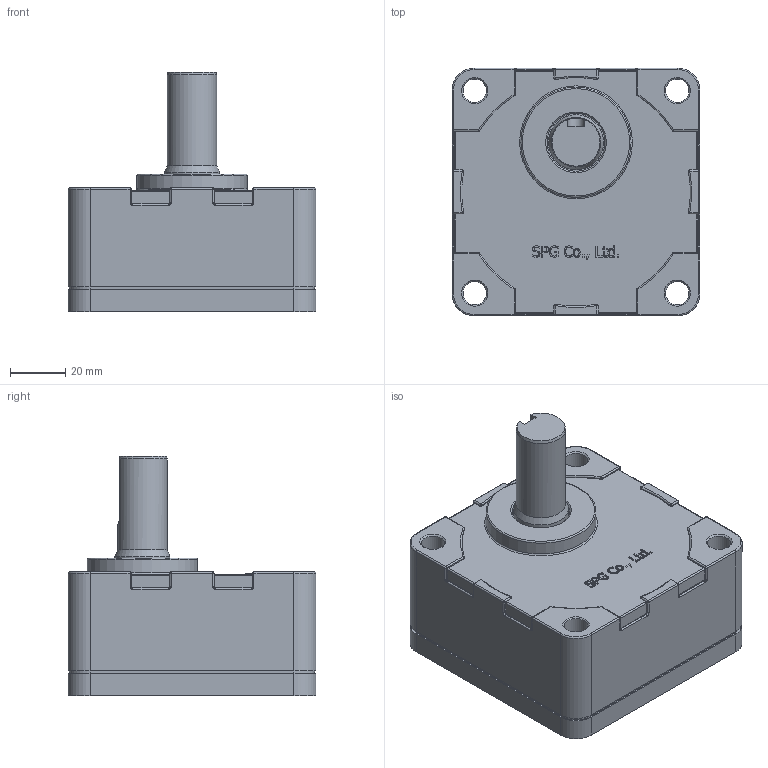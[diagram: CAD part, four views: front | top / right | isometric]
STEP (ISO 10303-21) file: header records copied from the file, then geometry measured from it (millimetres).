
FILE_DESCRIPTION((''),'2;1');
FILE_NAME('C:\Documents and Settings\Administrator\바탕 화면\BLDC 3D FILE\GEAR HEAD ASS''Y\60\XTG95K~XTG920K.stp','2014-06-19T12:46:14',('kdhkdh'),(''),'Autodesk Inventor 2011','Autodesk Inventor 2011','');
FILE_SCHEMA(('AUTOMOTIVE_DESIGN { 1 0 10303 214 1 1 1 1 }'));
Length unit declared in the file: millimetre
Products named in the file (1): 부품6
Bounding box: 90 x 90 x 87 mm (x, y, z)
Volume: 347507.8 mm3; surface area: 42230.8 mm2
Topology: 1 solids, 1 shells, 455 faces, 1142 edges, 694 vertices
Faces by surface type: plane 154, cylinder 143, bspline 81, sphere 32, torus 30, cone 15
Full cylindrical faces by diameter (mm): 3 x4, 4 x4, 5 x4, 8 x4, 8.5 x8, 9 x1, 18 x1, 20 x1, 21 x1, 40 x1, 83 x1
Entity records: 13429 total; most frequent: CARTESIAN_POINT 3343, ORIENTED_EDGE 2084, DIRECTION 1965, EDGE_CURVE 1042, AXIS2_PLACEMENT_3D 716, VERTEX_POINT 672, EDGE_LOOP 546, VECTOR 533
